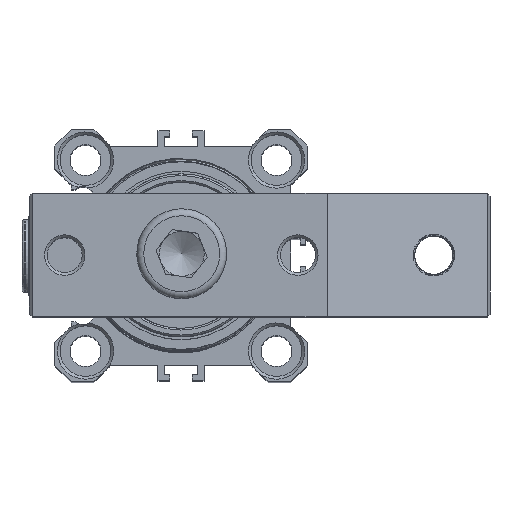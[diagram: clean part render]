
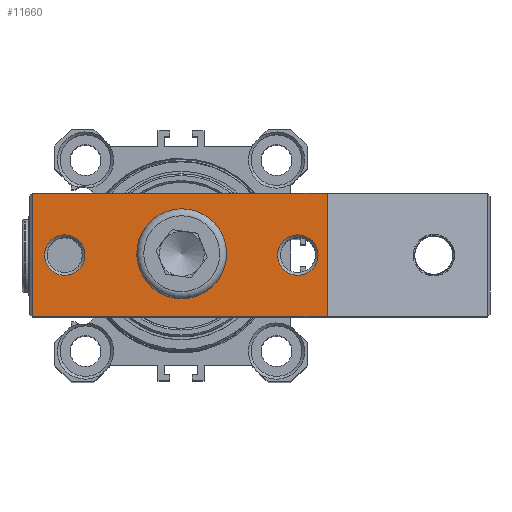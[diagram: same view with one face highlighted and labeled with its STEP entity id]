
A CAD part, top view. The second image highlights one B-rep face of the part: STEP entity #11660.
In plain terms, the highlighted planar face has unit normal (0, 0, 1) as drawn and (0, 1, 0) by its records, which use the part's own axes.
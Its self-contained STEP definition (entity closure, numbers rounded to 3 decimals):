
#356=PLANE('',#12963);
#455=FACE_BOUND('',#1793,.T.);
#456=FACE_BOUND('',#1794,.T.);
#457=FACE_BOUND('',#1795,.T.);
#1108=FACE_OUTER_BOUND('',#1792,.T.);
#1792=EDGE_LOOP('',(#9917,#9918,#9919,#9920));
#1793=EDGE_LOOP('',(#9921,#9922));
#1794=EDGE_LOOP('',(#9923,#9924));
#1795=EDGE_LOOP('',(#9925,#9926));
#2438=CIRCLE('',#12925,5.75);
#2439=CIRCLE('',#12926,5.75);
#2442=CIRCLE('',#12930,3.6);
#2443=CIRCLE('',#12931,3.6);
#2446=CIRCLE('',#12935,3.6);
#2447=CIRCLE('',#12936,3.6);
#3540=LINE('',#34158,#4201);
#3541=LINE('',#34160,#4202);
#3542=LINE('',#34162,#4203);
#3543=LINE('',#34163,#4204);
#4201=VECTOR('',#15755,1000.);
#4202=VECTOR('',#15756,1000.);
#4203=VECTOR('',#15757,1000.);
#4204=VECTOR('',#15758,1000.);
#5269=VERTEX_POINT('',#33299);
#5270=VERTEX_POINT('',#33301);
#5273=VERTEX_POINT('',#33309);
#5274=VERTEX_POINT('',#33311);
#5277=VERTEX_POINT('',#33319);
#5278=VERTEX_POINT('',#33321);
#5328=VERTEX_POINT('',#34156);
#5329=VERTEX_POINT('',#34157);
#5330=VERTEX_POINT('',#34159);
#5331=VERTEX_POINT('',#34161);
#6888=EDGE_CURVE('',#5270,#5269,#2438,.T.);
#6889=EDGE_CURVE('',#5269,#5270,#2439,.T.);
#6893=EDGE_CURVE('',#5274,#5273,#2442,.T.);
#6894=EDGE_CURVE('',#5273,#5274,#2443,.T.);
#6898=EDGE_CURVE('',#5278,#5277,#2446,.T.);
#6899=EDGE_CURVE('',#5277,#5278,#2447,.T.);
#6969=EDGE_CURVE('',#5328,#5329,#3540,.T.);
#6970=EDGE_CURVE('',#5328,#5330,#3541,.T.);
#6971=EDGE_CURVE('',#5330,#5331,#3542,.T.);
#6972=EDGE_CURVE('',#5329,#5331,#3543,.T.);
#9917=ORIENTED_EDGE('',*,*,#6969,.F.);
#9918=ORIENTED_EDGE('',*,*,#6970,.T.);
#9919=ORIENTED_EDGE('',*,*,#6971,.T.);
#9920=ORIENTED_EDGE('',*,*,#6972,.F.);
#9921=ORIENTED_EDGE('',*,*,#6888,.T.);
#9922=ORIENTED_EDGE('',*,*,#6889,.T.);
#9923=ORIENTED_EDGE('',*,*,#6898,.T.);
#9924=ORIENTED_EDGE('',*,*,#6899,.T.);
#9925=ORIENTED_EDGE('',*,*,#6893,.T.);
#9926=ORIENTED_EDGE('',*,*,#6894,.T.);
#11660=ADVANCED_FACE('',(#1108,#455,#456,#457),#356,.F.);
#12925=AXIS2_PLACEMENT_3D('',#33302,#15664,#15665);
#12926=AXIS2_PLACEMENT_3D('',#33303,#15666,#15667);
#12930=AXIS2_PLACEMENT_3D('',#33312,#15675,#15676);
#12931=AXIS2_PLACEMENT_3D('',#33313,#15677,#15678);
#12935=AXIS2_PLACEMENT_3D('',#33322,#15686,#15687);
#12936=AXIS2_PLACEMENT_3D('',#33323,#15688,#15689);
#12963=AXIS2_PLACEMENT_3D('',#34155,#15753,#15754);
#15664=DIRECTION('center_axis',(0.,-1.,0.));
#15665=DIRECTION('ref_axis',(0.,0.,-1.));
#15666=DIRECTION('center_axis',(0.,-1.,0.));
#15667=DIRECTION('ref_axis',(0.,0.,-1.));
#15675=DIRECTION('center_axis',(0.,-1.,0.));
#15676=DIRECTION('ref_axis',(0.,0.,-1.));
#15677=DIRECTION('center_axis',(0.,-1.,0.));
#15678=DIRECTION('ref_axis',(0.,0.,-1.));
#15686=DIRECTION('center_axis',(0.,-1.,0.));
#15687=DIRECTION('ref_axis',(0.,0.,-1.));
#15688=DIRECTION('center_axis',(0.,-1.,0.));
#15689=DIRECTION('ref_axis',(0.,0.,-1.));
#15753=DIRECTION('center_axis',(0.,-1.,0.));
#15754=DIRECTION('ref_axis',(0.,0.,-1.));
#15755=DIRECTION('',(-1.,0.,0.));
#15756=DIRECTION('',(0.,0.,-1.));
#15757=DIRECTION('',(-1.,0.,0.));
#15758=DIRECTION('',(0.,0.,-1.));
#33299=CARTESIAN_POINT('',(77.052,108.154,5.25));
#33301=CARTESIAN_POINT('',(77.052,108.154,16.75));
#33302=CARTESIAN_POINT('Origin',(77.052,108.154,11.));
#33303=CARTESIAN_POINT('Origin',(77.052,108.154,11.));
#33309=CARTESIAN_POINT('',(56.252,108.154,7.4));
#33311=CARTESIAN_POINT('',(56.252,108.154,14.6));
#33312=CARTESIAN_POINT('Origin',(56.252,108.154,11.));
#33313=CARTESIAN_POINT('Origin',(56.252,108.154,11.));
#33319=CARTESIAN_POINT('',(97.752,108.154,7.4));
#33321=CARTESIAN_POINT('',(97.752,108.154,14.6));
#33322=CARTESIAN_POINT('Origin',(97.752,108.154,11.));
#33323=CARTESIAN_POINT('Origin',(97.752,108.154,11.));
#34155=CARTESIAN_POINT('Origin',(104.052,108.154,22.));
#34156=CARTESIAN_POINT('',(103.552,108.154,22.));
#34157=CARTESIAN_POINT('',(51.052,108.154,22.));
#34158=CARTESIAN_POINT('',(104.052,108.154,22.));
#34159=CARTESIAN_POINT('',(103.552,108.154,0.));
#34160=CARTESIAN_POINT('',(103.552,108.154,22.));
#34161=CARTESIAN_POINT('',(51.052,108.154,0.));
#34162=CARTESIAN_POINT('',(104.052,108.154,0.));
#34163=CARTESIAN_POINT('',(51.052,108.154,22.));
